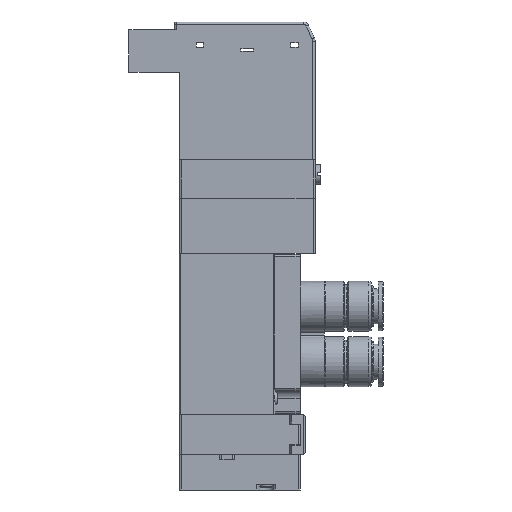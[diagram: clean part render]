
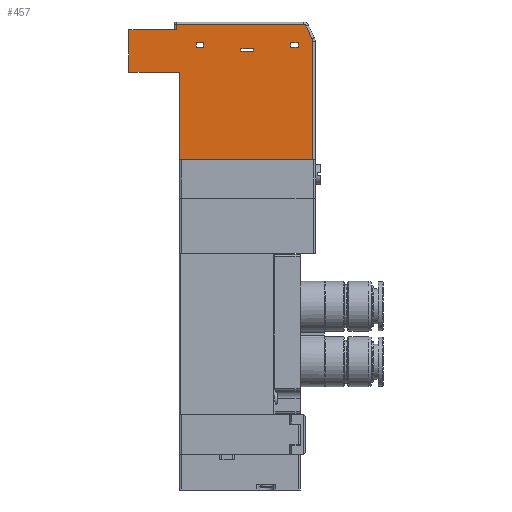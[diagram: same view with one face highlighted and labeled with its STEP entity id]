
A CAD part, left-side view. The second image highlights one B-rep face of the part: STEP entity #457.
In plain terms, the highlighted planar face has unit normal (-1, 0, 0).
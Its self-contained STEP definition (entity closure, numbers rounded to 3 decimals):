
#457=ADVANCED_FACE('',(#2262,#2263,#2264,#2265),#2261,.T.);
#2261=PLANE('',#5227);
#2262=FACE_OUTER_BOUND('',#5228,.T.);
#2263=FACE_BOUND('',#5229,.T.);
#2264=FACE_BOUND('',#5230,.T.);
#2265=FACE_BOUND('',#5231,.T.);
#5224=CARTESIAN_POINT('',(-5.,-30.15,-2.69));
#5225=DIRECTION('',(-1.,0.,0.));
#5226=DIRECTION('',(0.,0.,1.));
#5227=AXIS2_PLACEMENT_3D('',#5224,#5225,#5226);
#5228=EDGE_LOOP('',(#7739,#7740,#7741,#7742,#7743,#7744,#7745,#7746,#7747,#7748,#7749));
#5229=EDGE_LOOP('',(#7750,#7751,#7752,#7753));
#5230=EDGE_LOOP('',(#7754,#7755,#7756,#7757));
#5231=EDGE_LOOP('',(#7758,#7759,#7760,#7761));
#7739=ORIENTED_EDGE('',*,*,#9081,.T.);
#7740=ORIENTED_EDGE('',*,*,#9082,.F.);
#7741=ORIENTED_EDGE('',*,*,#9083,.F.);
#7742=ORIENTED_EDGE('',*,*,#9084,.F.);
#7743=ORIENTED_EDGE('',*,*,#9077,.F.);
#7744=ORIENTED_EDGE('',*,*,#9085,.F.);
#7745=ORIENTED_EDGE('',*,*,#9086,.T.);
#7746=ORIENTED_EDGE('',*,*,#9087,.T.);
#7747=ORIENTED_EDGE('',*,*,#9088,.T.);
#7748=ORIENTED_EDGE('',*,*,#9089,.T.);
#7749=ORIENTED_EDGE('',*,*,#9090,.T.);
#7750=ORIENTED_EDGE('',*,*,#9073,.T.);
#7751=ORIENTED_EDGE('',*,*,#9091,.F.);
#7752=ORIENTED_EDGE('',*,*,#9092,.F.);
#7753=ORIENTED_EDGE('',*,*,#9093,.F.);
#7754=ORIENTED_EDGE('',*,*,#9094,.T.);
#7755=ORIENTED_EDGE('',*,*,#9067,.T.);
#7756=ORIENTED_EDGE('',*,*,#9063,.T.);
#7757=ORIENTED_EDGE('',*,*,#9070,.T.);
#7758=ORIENTED_EDGE('',*,*,#9095,.F.);
#7759=ORIENTED_EDGE('',*,*,#9096,.F.);
#7760=ORIENTED_EDGE('',*,*,#9097,.F.);
#7761=ORIENTED_EDGE('',*,*,#9098,.F.);
#9063=EDGE_CURVE('',#12321,#12322,#12323,.T.);
#9067=EDGE_CURVE('',#12349,#12321,#12350,.T.);
#9070=EDGE_CURVE('',#12322,#12369,#12370,.T.);
#9073=EDGE_CURVE('',#12389,#12390,#12391,.T.);
#9077=EDGE_CURVE('',#12417,#12418,#12419,.T.);
#9081=EDGE_CURVE('',#12445,#12446,#12447,.T.);
#9082=EDGE_CURVE('',#12453,#12446,#12454,.T.);
#9083=EDGE_CURVE('',#12460,#12453,#12461,.T.);
#9084=EDGE_CURVE('',#12418,#12460,#12467,.T.);
#9085=EDGE_CURVE('',#12473,#12417,#12474,.T.);
#9086=EDGE_CURVE('',#12473,#12480,#12481,.T.);
#9087=EDGE_CURVE('',#12480,#12487,#12488,.T.);
#9088=EDGE_CURVE('',#12487,#12494,#12495,.T.);
#9089=EDGE_CURVE('',#12494,#12501,#12502,.T.);
#9090=EDGE_CURVE('',#12501,#12445,#12508,.T.);
#9091=EDGE_CURVE('',#12514,#12390,#12515,.T.);
#9092=EDGE_CURVE('',#12521,#12514,#12522,.T.);
#9093=EDGE_CURVE('',#12389,#12521,#12528,.T.);
#9094=EDGE_CURVE('',#12369,#12349,#12534,.T.);
#9095=EDGE_CURVE('',#12540,#12541,#12542,.T.);
#9096=EDGE_CURVE('',#12548,#12540,#12549,.T.);
#9097=EDGE_CURVE('',#12555,#12548,#12556,.T.);
#9098=EDGE_CURVE('',#12541,#12555,#12562,.T.);
#12321=VERTEX_POINT('',#17007);
#12322=VERTEX_POINT('',#17008);
#12323=LINE('',#17009,#17010);
#12349=VERTEX_POINT('',#17023);
#12350=LINE('',#17024,#17025);
#12369=VERTEX_POINT('',#17034);
#12370=LINE('',#17035,#17036);
#12389=VERTEX_POINT('',#17045);
#12390=VERTEX_POINT('',#17046);
#12391=LINE('',#17047,#17048);
#12417=VERTEX_POINT('',#17061);
#12418=VERTEX_POINT('',#17062);
#12419=LINE('',#17063,#17064);
#12445=VERTEX_POINT('',#17077);
#12446=VERTEX_POINT('',#17078);
#12447=LINE('',#17079,#17080);
#12453=VERTEX_POINT('',#17082);
#12454=LINE('',#17083,#17084);
#12460=VERTEX_POINT('',#17086);
#12461=LINE('',#17087,#17088);
#12467=LINE('',#17090,#17091);
#12473=VERTEX_POINT('',#17093);
#12474=LINE('',#17094,#17095);
#12480=VERTEX_POINT('',#17097);
#12481=LINE('',#17098,#17099);
#12487=VERTEX_POINT('',#17101);
#12488=CIRCLE('',#17105,1.5);
#12494=VERTEX_POINT('',#17106);
#12495=LINE('',#17107,#17108);
#12501=VERTEX_POINT('',#17110);
#12502=CIRCLE('',#17114,0.5);
#12508=LINE('',#17115,#17116);
#12514=VERTEX_POINT('',#17118);
#12515=LINE('',#17119,#17120);
#12521=VERTEX_POINT('',#17122);
#12522=LINE('',#17123,#17124);
#12528=LINE('',#17126,#17127);
#12534=LINE('',#17129,#17130);
#12540=VERTEX_POINT('',#17132);
#12541=VERTEX_POINT('',#17133);
#12542=LINE('',#17134,#17135);
#12548=VERTEX_POINT('',#17137);
#12549=LINE('',#17138,#17139);
#12555=VERTEX_POINT('',#17141);
#12556=LINE('',#17142,#17143);
#12562=LINE('',#17145,#17146);
#17007=CARTESIAN_POINT('',(-5.,-3.4,22.4));
#17008=CARTESIAN_POINT('',(-5.,-3.4,23.3));
#17009=CARTESIAN_POINT('',(-5.,-3.4,22.4));
#17010=VECTOR('',#17011,0.9);
#17011=DIRECTION('',(0.,0.,1.));
#17023=CARTESIAN_POINT('',(-5.,-4.8,22.4));
#17024=CARTESIAN_POINT('',(-5.,-4.8,22.4));
#17025=VECTOR('',#17026,1.4);
#17026=DIRECTION('',(0.,1.,0.));
#17034=CARTESIAN_POINT('',(-5.,-4.8,23.3));
#17035=CARTESIAN_POINT('',(-5.,-3.4,23.3));
#17036=VECTOR('',#17037,1.4);
#17037=DIRECTION('',(0.,-1.,0.));
#17045=CARTESIAN_POINT('',(-5.,-14.75,21.6));
#17046=CARTESIAN_POINT('',(-5.,-12.25,21.6));
#17047=CARTESIAN_POINT('',(-5.,-14.75,21.6));
#17048=VECTOR('',#17049,2.5);
#17049=DIRECTION('',(0.,1.,0.));
#17061=CARTESIAN_POINT('',(-5.,0.,0.));
#17062=CARTESIAN_POINT('',(-5.,0.,17.4));
#17063=CARTESIAN_POINT('',(-5.,0.,0.));
#17064=VECTOR('',#17065,17.4);
#17065=DIRECTION('',(0.,0.,1.));
#17077=CARTESIAN_POINT('',(-5.,0.5,26.9));
#17078=CARTESIAN_POINT('',(-5.,0.5,25.9));
#17079=CARTESIAN_POINT('',(-5.,0.5,26.9));
#17080=VECTOR('',#17081,1.);
#17081=DIRECTION('',(0.,0.,-1.));
#17082=CARTESIAN_POINT('',(-5.,10.,25.9));
#17083=CARTESIAN_POINT('',(-5.,10.,25.9));
#17084=VECTOR('',#17085,9.5);
#17085=DIRECTION('',(0.,-1.,0.));
#17086=CARTESIAN_POINT('',(-5.,10.,17.4));
#17087=CARTESIAN_POINT('',(-5.,10.,17.4));
#17088=VECTOR('',#17089,8.5);
#17089=DIRECTION('',(0.,0.,1.));
#17090=CARTESIAN_POINT('',(-5.,0.,17.4));
#17091=VECTOR('',#17092,10.);
#17092=DIRECTION('',(0.,1.,0.));
#17093=CARTESIAN_POINT('',(-5.,-26.5,0.));
#17094=CARTESIAN_POINT('',(-5.,-26.5,0.));
#17095=VECTOR('',#17096,26.5);
#17096=DIRECTION('',(0.,1.,0.));
#17097=CARTESIAN_POINT('',(-5.,-26.5,23.465));
#17098=CARTESIAN_POINT('',(-5.,-26.5,0.));
#17099=VECTOR('',#17100,23.465);
#17100=DIRECTION('',(0.,0.,1.));
#17101=CARTESIAN_POINT('',(-5.,-26.364,24.088));
#17102=CARTESIAN_POINT('',(-5.,-25.,23.465));
#17103=DIRECTION('',(-1.,0.,0.));
#17104=DIRECTION('',(0.,0.,-1.));
#17105=AXIS2_PLACEMENT_3D('',#17102,#17103,#17104);
#17106=CARTESIAN_POINT('',(-5.,-25.212,26.608));
#17107=CARTESIAN_POINT('',(-5.,-26.364,24.088));
#17108=VECTOR('',#17109,2.771);
#17109=DIRECTION('',(0.,0.416,0.909));
#17110=CARTESIAN_POINT('',(-5.,-24.758,26.9));
#17111=CARTESIAN_POINT('',(-5.,-24.758,26.4));
#17112=DIRECTION('',(-1.,0.,0.));
#17113=DIRECTION('',(0.,0.,-1.));
#17114=AXIS2_PLACEMENT_3D('',#17111,#17112,#17113);
#17115=CARTESIAN_POINT('',(-5.,-24.758,26.9));
#17116=VECTOR('',#17117,25.258);
#17117=DIRECTION('',(0.,1.,0.));
#17118=CARTESIAN_POINT('',(-5.,-12.25,22.1));
#17119=CARTESIAN_POINT('',(-5.,-12.25,22.1));
#17120=VECTOR('',#17121,0.5);
#17121=DIRECTION('',(0.,0.,-1.));
#17122=CARTESIAN_POINT('',(-5.,-14.75,22.1));
#17123=CARTESIAN_POINT('',(-5.,-14.75,22.1));
#17124=VECTOR('',#17125,2.5);
#17125=DIRECTION('',(0.,1.,0.));
#17126=CARTESIAN_POINT('',(-5.,-14.75,21.6));
#17127=VECTOR('',#17128,0.5);
#17128=DIRECTION('',(0.,0.,1.));
#17129=CARTESIAN_POINT('',(-5.,-4.8,23.3));
#17130=VECTOR('',#17131,0.9);
#17131=DIRECTION('',(0.,0.,-1.));
#17132=CARTESIAN_POINT('',(-5.,-23.6,22.4));
#17133=CARTESIAN_POINT('',(-5.,-23.6,23.3));
#17134=CARTESIAN_POINT('',(-5.,-23.6,22.4));
#17135=VECTOR('',#17136,0.9);
#17136=DIRECTION('',(0.,0.,1.));
#17137=CARTESIAN_POINT('',(-5.,-22.2,22.4));
#17138=CARTESIAN_POINT('',(-5.,-22.2,22.4));
#17139=VECTOR('',#17140,1.4);
#17140=DIRECTION('',(0.,-1.,0.));
#17141=CARTESIAN_POINT('',(-5.,-22.2,23.3));
#17142=CARTESIAN_POINT('',(-5.,-22.2,23.3));
#17143=VECTOR('',#17144,0.9);
#17144=DIRECTION('',(0.,0.,-1.));
#17145=CARTESIAN_POINT('',(-5.,-23.6,23.3));
#17146=VECTOR('',#17147,1.4);
#17147=DIRECTION('',(0.,1.,0.));
